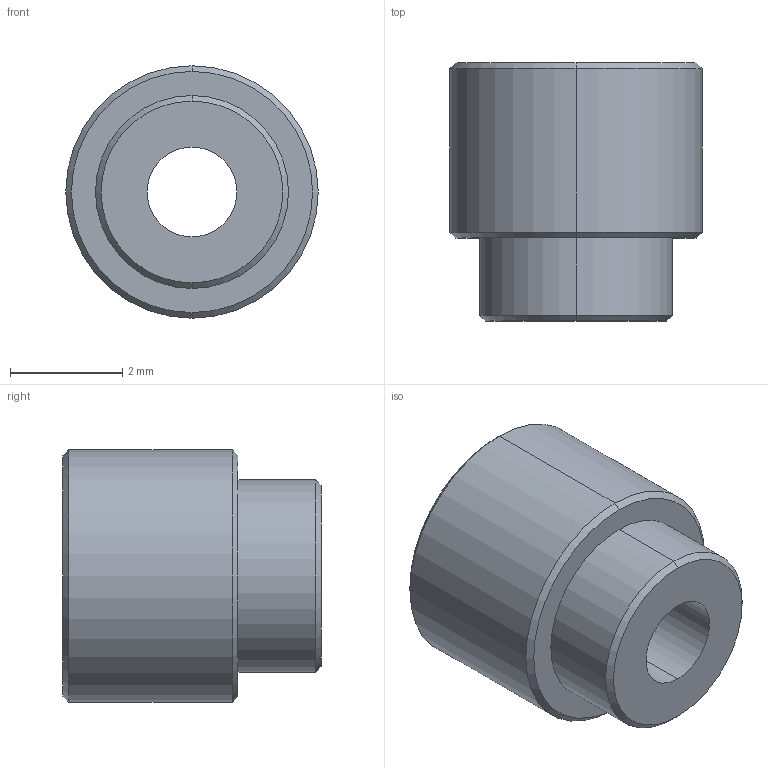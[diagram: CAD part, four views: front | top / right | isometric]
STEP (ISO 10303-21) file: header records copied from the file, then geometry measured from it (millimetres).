
FILE_DESCRIPTION (( 'STEP AP214' ), '1' );
FILE_NAME ('Short Standoff (Height 4.6mm, M2).STEP', '2019-02-26T02:19:50', ( '' ), ( '' ), 'SwSTEP 2.0', 'SolidWorks 2018', '' );
FILE_SCHEMA (( 'AUTOMOTIVE_DESIGN' ));
Length unit declared in the file: millimetre
Products named in the file (1): Short Standoff (Height 4.6mm, M2)
Bounding box: 4.5 x 4.6 x 4.5 mm (x, y, z)
Volume: 53.9 mm3; surface area: 108.7 mm2
Topology: 1 solids, 1 shells, 15 faces, 30 edges, 18 vertices
Faces by surface type: cone 6, cylinder 6, plane 3
Entity records: 432 total; most frequent: DIRECTION 80, CARTESIAN_POINT 64, ORIENTED_EDGE 60, AXIS2_PLACEMENT_3D 34, EDGE_CURVE 30, VERTEX_POINT 18, CIRCLE 18, EDGE_LOOP 18
